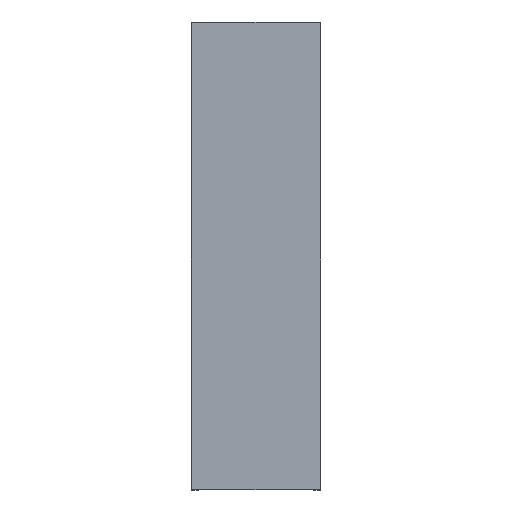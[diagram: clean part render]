
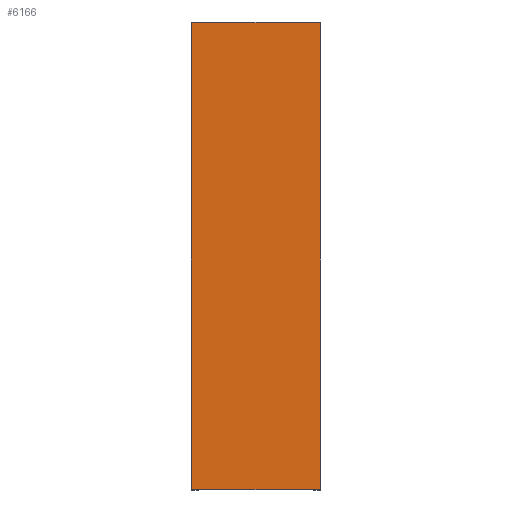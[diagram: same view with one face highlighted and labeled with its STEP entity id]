
A CAD part, top view. The second image highlights one B-rep face of the part: STEP entity #6166.
In plain terms, the highlighted planar face has unit normal (0, 0, 1).
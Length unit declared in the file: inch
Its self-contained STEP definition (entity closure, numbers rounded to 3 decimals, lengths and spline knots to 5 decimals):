
#29=DIRECTION('',(1.,0.,0.));
#30=VECTOR('',#29,23.276);
#31=CARTESIAN_POINT('',(-11.638,42.388,0.));
#32=LINE('',#31,#30);
#2226=DIRECTION('',(0.,1.,0.));
#2227=VECTOR('',#2226,84.776);
#2228=CARTESIAN_POINT('',(-11.638,-42.388,0.));
#2229=LINE('',#2228,#2227);
#2507=DIRECTION('',(-1.,0.,0.));
#2508=VECTOR('',#2507,23.276);
#2509=CARTESIAN_POINT('',(11.638,-42.388,0.));
#2510=LINE('',#2509,#2508);
#4508=DIRECTION('',(0.,-1.,0.));
#4509=VECTOR('',#4508,84.776);
#4510=CARTESIAN_POINT('',(11.638,42.388,0.));
#4511=LINE('',#4510,#4509);
#5283=CARTESIAN_POINT('',(-11.638,-42.388,0.));
#5284=CARTESIAN_POINT('',(-11.638,42.388,0.));
#5285=VERTEX_POINT('',#5283);
#5286=VERTEX_POINT('',#5284);
#5291=CARTESIAN_POINT('',(11.638,42.388,0.));
#5292=CARTESIAN_POINT('',(11.638,-42.388,0.));
#5293=VERTEX_POINT('',#5291);
#5294=VERTEX_POINT('',#5292);
#6151=CARTESIAN_POINT('',(0.,0.,0.));
#6152=DIRECTION('',(0.,0.,1.));
#6153=DIRECTION('',(1.,0.,0.));
#6154=AXIS2_PLACEMENT_3D('',#6151,#6152,#6153);
#6155=PLANE('',#6154);
#6157=ORIENTED_EDGE('',*,*,#6156,.T.);
#6159=ORIENTED_EDGE('',*,*,#6158,.T.);
#6161=ORIENTED_EDGE('',*,*,#6160,.T.);
#6163=ORIENTED_EDGE('',*,*,#6162,.T.);
#6164=EDGE_LOOP('',(#6157,#6159,#6161,#6163));
#6165=FACE_OUTER_BOUND('',#6164,.F.);
#6156=EDGE_CURVE('',#5286,#5293,#32,.T.);
#6158=EDGE_CURVE('',#5293,#5294,#4511,.T.);
#6160=EDGE_CURVE('',#5294,#5285,#2510,.T.);
#6162=EDGE_CURVE('',#5285,#5286,#2229,.T.);
#6166=ADVANCED_FACE('',(#6165),#6155,.T.);
